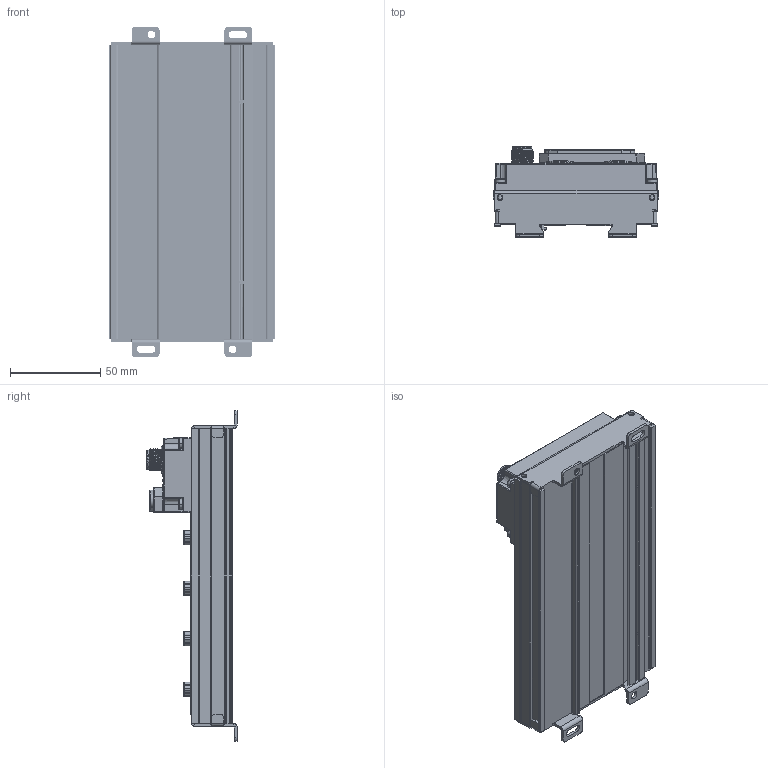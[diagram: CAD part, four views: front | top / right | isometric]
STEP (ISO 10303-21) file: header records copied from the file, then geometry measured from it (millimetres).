
FILE_DESCRIPTION (( 'STEP AP203' ), '1' );
FILE_NAME ('009E91杅耀 230821.STEP', '2023-08-22T03:15:56', ( '' ), ( '' ), 'SwSTEP 2.0', 'SolidWorks 2016', '' );
FILE_SCHEMA (( 'CONFIG_CONTROL_DESIGN' ));
Products named in the file (1): 009E91杅耀 230821
Bounding box: 92 x 50.1 x 183.5 mm (x, y, z)
Volume: 339926.7 mm3; surface area: 87889.8 mm2
Topology: 1 solids, 17 shells, 4554 faces, 11957 edges, 7718 vertices
Faces by surface type: plane 2339, cylinder 1287, bspline 512, cone 388, sphere 22, torus 6
Entity records: 177619 total; most frequent: CARTESIAN_POINT 68765, ORIENTED_EDGE 23872, DIRECTION 20632, EDGE_CURVE 11936, VERTEX_POINT 7717, VECTOR 7476, LINE 7476, AXIS2_PLACEMENT_3D 6578
